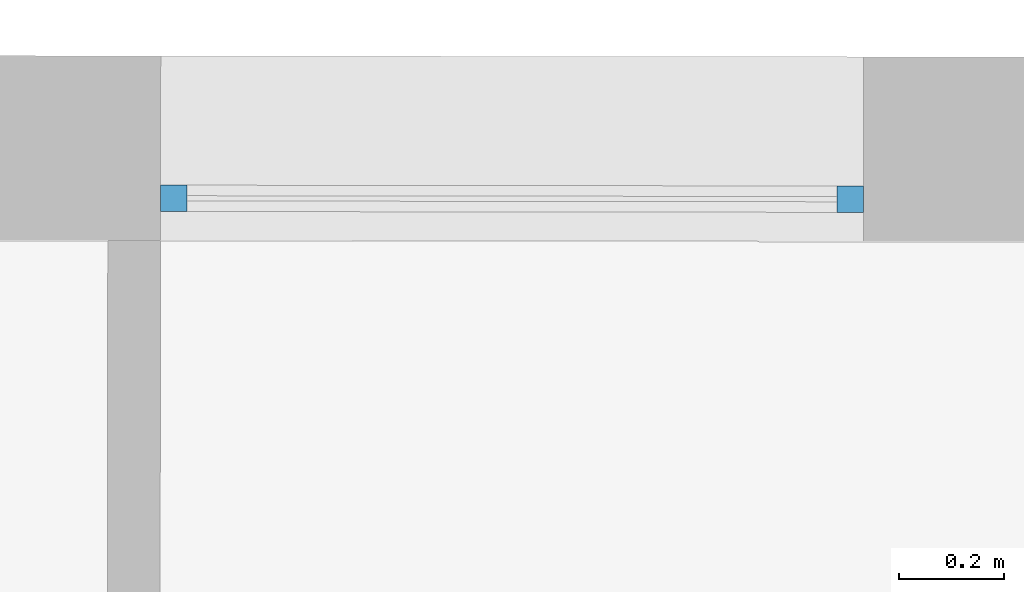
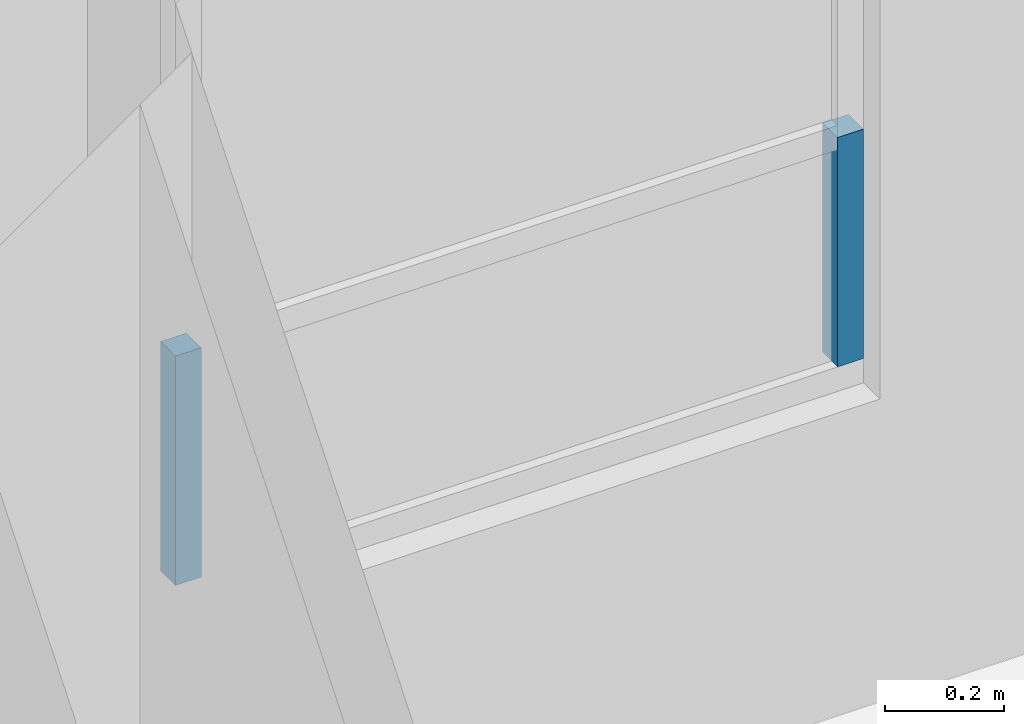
# One storey, part 25 of 35: 2 members, 1 element without a shape of its own.
"""IFC2X3 building model written with IfcOpenShell, lengths in metres."""

from ifc_helpers import new_model, entity, si_unit, converted_unit, derived_unit, direction, frame, origin, origin_2d_with_axis, place, context, subcontext, project, spatial, rectangle, extrude, source, transform, mapped, material, type_object, type_shapes, element, aggregate, save


model = new_model("IFC2X3")

# Units and contexts
model_context = context("Model", 3, precision=1e-05, world=origin(), true_north=direction((6.123233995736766e-17, 1.0)))
body_context = subcontext(model_context, "Body", "Model", "MODEL_VIEW")
ifc_project = project(units=[si_unit("LENGTHUNIT", "METRE"), si_unit("AREAUNIT", "SQUARE_METRE"), converted_unit("PLANEANGLEUNIT", "DEGREE", entity("IfcPlaneAngleMeasure", 0.017453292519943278), si_unit("PLANEANGLEUNIT", "RADIAN"), dimensions=[0, 0, 0, 0, 0, 0, 0]), derived_unit("THERMALTRANSMITTANCEUNIT", [(si_unit("MASSUNIT", "GRAM", prefix="KILO"), 1), (si_unit("THERMODYNAMICTEMPERATUREUNIT", "KELVIN"), -1), (si_unit("TIMEUNIT", "SECOND"), -3)])], contexts=[model_context])

# Site, building, storey
site_placement = place(None, frame((1253.6752467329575, 2072.143113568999, 91.49999999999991), z_axis=(0.0, 0.0, 1.0), x_axis=(0.7237211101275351, 0.6900925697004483, 0.0)))
site = spatial("IfcSite", under=ifc_project, at=site_placement, Name="Surface", CompositionType="ELEMENT")
building_placement = place(site_placement, origin())
building = spatial("IfcBuilding", under=site, at=building_placement, CompositionType="ELEMENT")
storey_placement = place(building_placement, frame((0.0, 0.0, 3.549999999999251)))
storey = spatial("IfcBuildingStorey", under=building, at=storey_placement, Name="1-R+1", CompositionType="ELEMENT", Elevation=3.549999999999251)

# Curtain wall, members
curtain_wall_type = type_object("IfcCurtainWallType", Name="Mur-rideau:Menuiserie Ext 1F+1OB VERTIC", PredefinedType="NOTDEFINED")
curtain_wall_placement = place(storey_placement, frame((0.0, 0.0, -3.549999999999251)))
curtain_wall = element("IfcCurtainWall", 1, at=curtain_wall_placement, inside=storey, type_object=curtain_wall_type, Name="Mur-rideau:Menuiserie Ext 1F+1OB VERTIC", ObjectType="Mur-rideau:Menuiserie Ext 1F+1OB VERTIC")
ifc_material = material(Name="OMD_Aluminium Men Ext")
member_type_1 = type_object("IfcMemberType", Name="Meneau rectangulaire:50x50", PredefinedType="MULLION", material=ifc_material)
shared_shape_1 = source(origin(), body_context, "Body", "SweptSolid", [
    extrude(rectangle(XDim=0.05, YDim=0.049999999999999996, at=origin_2d_with_axis()), frame((-0.025, 0.0, -0.4699999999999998), z_axis=(0.0, 0.0, 1.0), x_axis=(-1.0, 0.0, 0.0)), (0.0, 0.0, 1.0), 0.4699999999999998),
])
type_shapes(member_type_1, [shared_shape_1])
member_1_placement = place(curtain_wall_placement, frame((196.00591095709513, -1.14129399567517, 4.219999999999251), z_axis=(0.0, 0.0, -1.0), x_axis=(-0.7228702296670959, 0.6909838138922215, 0.0)))
member_1 = element("IfcMember", 2, at=member_1_placement, type_object=member_type_1, material=ifc_material, Name="Meneau rectangulaire:50x50", ObjectType="Meneau rectangulaire:50x50", context=body_context, shape_type="MappedRepresentation", body=[
    mapped(shared_shape_1, transform((0.0, 0.0, 0.0), scale=1.0)),
])
member_type_2 = type_object("IfcMemberType", Name="Meneau rectangulaire:50x50", PredefinedType="MULLION", material=ifc_material)
shared_shape_2 = source(origin(), body_context, "Body", "SweptSolid", [
    extrude(rectangle(XDim=0.05, YDim=0.05000000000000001, at=origin_2d_with_axis()), frame((-0.025, 0.0, -0.4699999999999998), z_axis=(0.0, 0.0, 1.0), x_axis=(-1.0, 0.0, 0.0)), (0.0, 0.0, 1.0), 0.4699999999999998),
])
type_shapes(member_type_2, [shared_shape_2])
member_2_placement = place(curtain_wall_placement, frame((196.96912088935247, -2.062015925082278, 4.689999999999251), z_axis=(0.0, 0.0, 1.0), x_axis=(0.7228702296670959, -0.6909838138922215, 0.0)))
member_2 = element("IfcMember", 3, at=member_2_placement, type_object=member_type_2, material=ifc_material, Name="Meneau rectangulaire:50x50", ObjectType="Meneau rectangulaire:50x50", context=body_context, shape_type="MappedRepresentation", body=[
    mapped(shared_shape_2, transform((0.0, 0.0, 0.0), scale=1.0)),
])
aggregate(curtain_wall, [member_1, member_2])

save(model, "model.ifc")
